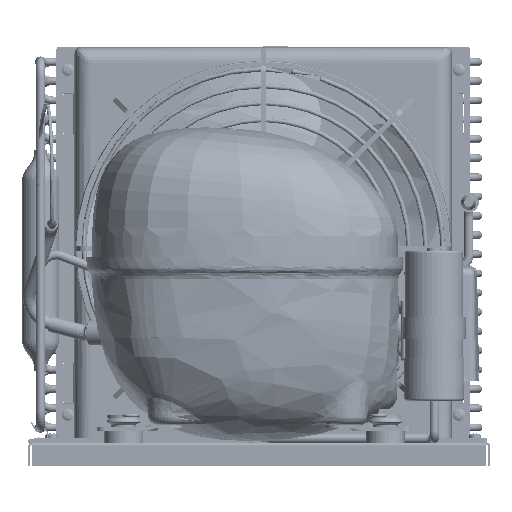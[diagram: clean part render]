
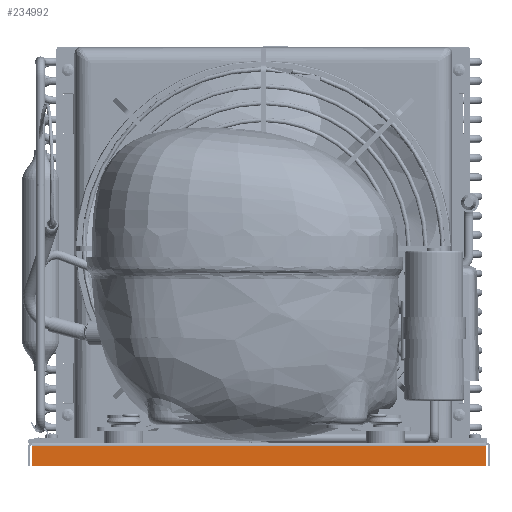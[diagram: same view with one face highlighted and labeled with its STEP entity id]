
A CAD part, front view. The second image highlights one B-rep face of the part: STEP entity #234992.
In plain terms, the highlighted planar face has unit normal (0, -1, 0).
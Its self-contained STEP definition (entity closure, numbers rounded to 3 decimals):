
#76183=ORIENTED_EDGE('',*,*,#133420,.F.);
#76184=ORIENTED_EDGE('',*,*,#133409,.F.);
#76185=ORIENTED_EDGE('',*,*,#133418,.T.);
#76186=ORIENTED_EDGE('',*,*,#133414,.T.);
#133409=EDGE_CURVE('',#162022,#162023,#180987,.T.);
#133414=EDGE_CURVE('',#162026,#162025,#180989,.T.);
#133418=EDGE_CURVE('',#162022,#162026,#180993,.T.);
#133420=EDGE_CURVE('',#162023,#162025,#180995,.T.);
#162022=VERTEX_POINT('',#306556);
#162023=VERTEX_POINT('',#306558);
#162025=VERTEX_POINT('',#306565);
#162026=VERTEX_POINT('',#306567);
#180987=LINE('',#306557,#191490);
#180989=LINE('',#306566,#191492);
#180993=LINE('',#306573,#191496);
#180995=LINE('',#306578,#191498);
#191490=VECTOR('',#263182,1000.);
#191492=VECTOR('',#263192,1000.);
#191496=VECTOR('',#263198,1000.);
#191498=VECTOR('',#263206,1000.);
#201981=EDGE_LOOP('',(#76183,#76184,#76185,#76186));
#215790=FACE_BOUND('',#201981,.T.);
#229534=PLANE('',#246624);
#234992=ADVANCED_FACE('',(#215790),#229534,.F.);
#246624=AXIS2_PLACEMENT_3D('',#306577,#263204,#263205);
#263182=DIRECTION('',(0.,0.,1.));
#263192=DIRECTION('',(0.,0.,1.));
#263198=DIRECTION('',(1.,0.,0.));
#263204=DIRECTION('',(0.,1.,0.));
#263205=DIRECTION('',(0.,0.,1.));
#263206=DIRECTION('',(1.,0.,0.));
#306556=CARTESIAN_POINT('',(-147.7,-190.,-7.5));
#306557=CARTESIAN_POINT('',(-147.7,-190.,7.5));
#306558=CARTESIAN_POINT('',(-147.7,-190.,5.2));
#306565=CARTESIAN_POINT('',(147.7,-190.,5.2));
#306566=CARTESIAN_POINT('',(147.7,-190.,7.5));
#306567=CARTESIAN_POINT('',(147.7,-190.,-7.5));
#306573=CARTESIAN_POINT('',(-150.,-190.,-7.5));
#306577=CARTESIAN_POINT('',(-150.,-190.,7.5));
#306578=CARTESIAN_POINT('',(-150.,-190.,5.2));
